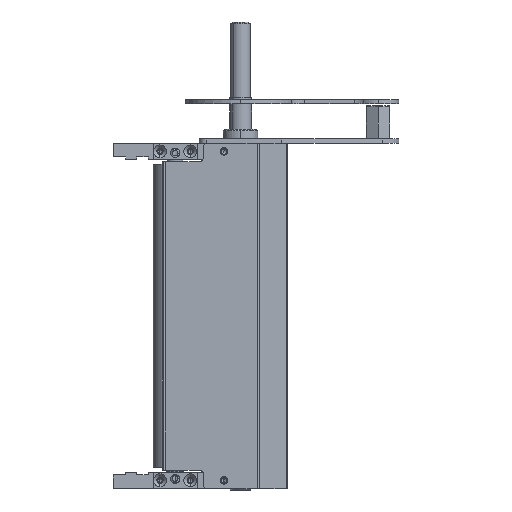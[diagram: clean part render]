
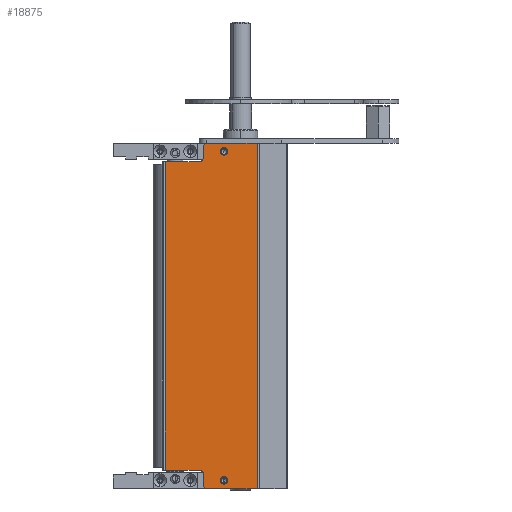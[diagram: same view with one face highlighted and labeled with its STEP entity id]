
A CAD part, left-side view. The second image highlights one B-rep face of the part: STEP entity #18875.
In plain terms, the highlighted planar face has unit normal (-1, 0, 0) as drawn and (1, 0, 0) by its records, which use the part's own axes.
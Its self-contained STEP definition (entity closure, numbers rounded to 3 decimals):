
#106 = ORIENTED_EDGE ( 'NONE', *, *, #14935, .F. ) ;
#121 = ORIENTED_EDGE ( 'NONE', *, *, #9740, .F. ) ;
#143 = CARTESIAN_POINT ( 'NONE',  ( 51.5, 62.5, -240.5 ) ) ;
#187 = DIRECTION ( 'NONE',  ( 1., 0., 0. ) ) ;
#375 = VERTEX_POINT ( 'NONE', #6140 ) ;
#398 = CARTESIAN_POINT ( 'NONE',  ( 51.5, 59.5, -10.5 ) ) ;
#423 = AXIS2_PLACEMENT_3D ( 'NONE', #10586, #187, #16388 ) ;
#641 = ORIENTED_EDGE ( 'NONE', *, *, #16964, .F. ) ;
#833 = EDGE_CURVE ( 'NONE', #13471, #16426, #17404, .T. ) ;
#1150 = VERTEX_POINT ( 'NONE', #10068 ) ;
#1168 = ORIENTED_EDGE ( 'NONE', *, *, #14545, .F. ) ;
#1393 = EDGE_CURVE ( 'NONE', #14818, #1468, #7954, .T. ) ;
#1468 = VERTEX_POINT ( 'NONE', #6281 ) ;
#1486 = PLANE ( 'NONE',  #6393 ) ;
#1951 = CARTESIAN_POINT ( 'NONE',  ( 51.5, 20.414, 0. ) ) ;
#2062 = DIRECTION ( 'NONE',  ( 0., 0., -1. ) ) ;
#2402 = CARTESIAN_POINT ( 'NONE',  ( 51.5, 19.793, -251. ) ) ;
#2522 = CIRCLE ( 'NONE', #9029, 2.75 ) ;
#2631 = CIRCLE ( 'NONE', #3945, 2.75 ) ;
#2635 = ORIENTED_EDGE ( 'NONE', *, *, #5751, .F. ) ;
#2716 = VERTEX_POINT ( 'NONE', #11891 ) ;
#2729 = DIRECTION ( 'NONE',  ( 0., 0., 1. ) ) ;
#3034 = LINE ( 'NONE', #6364, #10603 ) ;
#3144 = CARTESIAN_POINT ( 'NONE',  ( 51.5, 19.793, -251. ) ) ;
#3156 = EDGE_CURVE ( 'NONE', #375, #4272, #18952, .T. ) ;
#3270 = AXIS2_PLACEMENT_3D ( 'NONE', #143, #5925, #5731 ) ;
#3306 = CARTESIAN_POINT ( 'NONE',  ( 51.5, 62.5, -10.5 ) ) ;
#3515 = EDGE_CURVE ( 'NONE', #1150, #6341, #10384, .T. ) ;
#3635 = VERTEX_POINT ( 'NONE', #398 ) ;
#3637 = DIRECTION ( 'NONE',  ( 0., 1., 0. ) ) ;
#3696 = VERTEX_POINT ( 'NONE', #7588 ) ;
#3945 = AXIS2_PLACEMENT_3D ( 'NONE', #5201, #6939, #3998 ) ;
#3998 = DIRECTION ( 'NONE',  ( 0., 1., 0. ) ) ;
#4078 = VERTEX_POINT ( 'NONE', #13993 ) ;
#4108 = CARTESIAN_POINT ( 'NONE',  ( 51.5, 47.25, -245. ) ) ;
#4234 = EDGE_CURVE ( 'NONE', #1150, #4272, #15638, .T. ) ;
#4247 = VERTEX_POINT ( 'NONE', #9824 ) ;
#4272 = VERTEX_POINT ( 'NONE', #13159 ) ;
#4343 = CARTESIAN_POINT ( 'NONE',  ( 51.5, 20.414, -251. ) ) ;
#4873 = CARTESIAN_POINT ( 'NONE',  ( 51.5, 20.414, -251. ) ) ;
#4911 = CIRCLE ( 'NONE', #7179, 2.75 ) ;
#5201 = CARTESIAN_POINT ( 'NONE',  ( 51.5, 44.5, -6. ) ) ;
#5346 = CIRCLE ( 'NONE', #14782, 3. ) ;
#5615 = AXIS2_PLACEMENT_3D ( 'NONE', #3306, #13566, #19077 ) ;
#5625 = CARTESIAN_POINT ( 'NONE',  ( 51.5, 56.5, -3. ) ) ;
#5731 = DIRECTION ( 'NONE',  ( 0., 1., 0. ) ) ;
#5751 = EDGE_CURVE ( 'NONE', #12759, #17498, #8062, .T. ) ;
#5925 = DIRECTION ( 'NONE',  ( -1., 0., 0. ) ) ;
#5999 = VECTOR ( 'NONE', #6570, 1000. ) ;
#6140 = CARTESIAN_POINT ( 'NONE',  ( 51.5, 56.5, -251. ) ) ;
#6281 = CARTESIAN_POINT ( 'NONE',  ( 51.5, 41.75, -245. ) ) ;
#6334 = VECTOR ( 'NONE', #2729, 1000. ) ;
#6341 = VERTEX_POINT ( 'NONE', #15886 ) ;
#6364 = CARTESIAN_POINT ( 'NONE',  ( 51.5, 59.5, -251. ) ) ;
#6393 = AXIS2_PLACEMENT_3D ( 'NONE', #3144, #16257, #10523 ) ;
#6475 = VECTOR ( 'NONE', #8469, 1000. ) ;
#6570 = DIRECTION ( 'NONE',  ( 0., 1., 0. ) ) ;
#6655 = AXIS2_PLACEMENT_3D ( 'NONE', #17667, #8922, #14819 ) ;
#6939 = DIRECTION ( 'NONE',  ( 1., 0., 0. ) ) ;
#7032 = CARTESIAN_POINT ( 'NONE',  ( 51.5, 44.5, -6. ) ) ;
#7116 = CARTESIAN_POINT ( 'NONE',  ( 51.5, 59.5, -251. ) ) ;
#7179 = AXIS2_PLACEMENT_3D ( 'NONE', #15992, #18940, #7193 ) ;
#7193 = DIRECTION ( 'NONE',  ( 0., 1., 0. ) ) ;
#7218 = DIRECTION ( 'NONE',  ( 1., 0., 0. ) ) ;
#7371 = ORIENTED_EDGE ( 'NONE', *, *, #3515, .T. ) ;
#7447 = ORIENTED_EDGE ( 'NONE', *, *, #12819, .F. ) ;
#7588 = CARTESIAN_POINT ( 'NONE',  ( 51.5, 56.5, 0. ) ) ;
#7676 = VECTOR ( 'NONE', #18388, 1000. ) ;
#7742 = EDGE_CURVE ( 'NONE', #15659, #16426, #13580, .T. ) ;
#7954 = CIRCLE ( 'NONE', #6655, 2.75 ) ;
#7958 = CARTESIAN_POINT ( 'NONE',  ( 51.5, 62.5, -13.5 ) ) ;
#8062 = LINE ( 'NONE', #4343, #9889 ) ;
#8120 = CARTESIAN_POINT ( 'NONE',  ( 51.5, 19.793, -13.5 ) ) ;
#8157 = VECTOR ( 'NONE', #3637, 1000. ) ;
#8469 = DIRECTION ( 'NONE',  ( 0., -1., 0. ) ) ;
#8922 = DIRECTION ( 'NONE',  ( 1., 0., 0. ) ) ;
#9029 = AXIS2_PLACEMENT_3D ( 'NONE', #7032, #13069, #11607 ) ;
#9060 = LINE ( 'NONE', #18265, #7676 ) ;
#9524 = EDGE_LOOP ( 'NONE', ( #106, #121 ) ) ;
#9740 = EDGE_CURVE ( 'NONE', #4078, #2716, #2522, .T. ) ;
#9771 = ORIENTED_EDGE ( 'NONE', *, *, #1393, .F. ) ;
#9824 = CARTESIAN_POINT ( 'NONE',  ( 51.5, 59.5, -3. ) ) ;
#9889 = VECTOR ( 'NONE', #11548, 1000. ) ;
#10068 = CARTESIAN_POINT ( 'NONE',  ( 51.5, 59.5, -240.5 ) ) ;
#10353 = FACE_BOUND ( 'NONE', #14289, .T. ) ;
#10384 = CIRCLE ( 'NONE', #3270, 3. ) ;
#10523 = DIRECTION ( 'NONE',  ( 0., 1., 0. ) ) ;
#10586 = CARTESIAN_POINT ( 'NONE',  ( 51.5, 56.5, -248. ) ) ;
#10603 = VECTOR ( 'NONE', #2062, 1000. ) ;
#11145 = EDGE_CURVE ( 'NONE', #15659, #3635, #14860, .T. ) ;
#11548 = DIRECTION ( 'NONE',  ( 0., 0., 1. ) ) ;
#11607 = DIRECTION ( 'NONE',  ( 0., 1., 0. ) ) ;
#11732 = VECTOR ( 'NONE', #17416, 1000. ) ;
#11891 = CARTESIAN_POINT ( 'NONE',  ( 51.5, 41.75, -6. ) ) ;
#12048 = LINE ( 'NONE', #2402, #8157 ) ;
#12374 = EDGE_LOOP ( 'NONE', ( #17835, #13753, #14579, #7371, #14474, #15658, #17918, #18740, #1168, #17411, #7447, #2635 ) ) ;
#12594 = EDGE_CURVE ( 'NONE', #12759, #375, #12048, .T. ) ;
#12759 = VERTEX_POINT ( 'NONE', #4873 ) ;
#12819 = EDGE_CURVE ( 'NONE', #17498, #3696, #9060, .T. ) ;
#13069 = DIRECTION ( 'NONE',  ( 1., 0., 0. ) ) ;
#13159 = CARTESIAN_POINT ( 'NONE',  ( 51.5, 59.5, -248. ) ) ;
#13471 = VERTEX_POINT ( 'NONE', #17608 ) ;
#13566 = DIRECTION ( 'NONE',  ( -1., 0., 0. ) ) ;
#13580 = LINE ( 'NONE', #8120, #5999 ) ;
#13753 = ORIENTED_EDGE ( 'NONE', *, *, #3156, .T. ) ;
#13993 = CARTESIAN_POINT ( 'NONE',  ( 51.5, 47.25, -6. ) ) ;
#14029 = EDGE_CURVE ( 'NONE', #4247, #3696, #5346, .T. ) ;
#14289 = EDGE_LOOP ( 'NONE', ( #641, #9771 ) ) ;
#14474 = ORIENTED_EDGE ( 'NONE', *, *, #14827, .F. ) ;
#14494 = FACE_BOUND ( 'NONE', #9524, .T. ) ;
#14545 = EDGE_CURVE ( 'NONE', #4247, #3635, #3034, .T. ) ;
#14579 = ORIENTED_EDGE ( 'NONE', *, *, #4234, .F. ) ;
#14742 = LINE ( 'NONE', #18989, #6475 ) ;
#14782 = AXIS2_PLACEMENT_3D ( 'NONE', #5625, #7218, #17522 ) ;
#14818 = VERTEX_POINT ( 'NONE', #4108 ) ;
#14819 = DIRECTION ( 'NONE',  ( 0., 1., 0. ) ) ;
#14827 = EDGE_CURVE ( 'NONE', #13471, #6341, #14742, .T. ) ;
#14860 = CIRCLE ( 'NONE', #5615, 3. ) ;
#14935 = EDGE_CURVE ( 'NONE', #2716, #4078, #2631, .T. ) ;
#15310 = CARTESIAN_POINT ( 'NONE',  ( 51.5, 87., -13.5 ) ) ;
#15638 = LINE ( 'NONE', #7116, #11732 ) ;
#15658 = ORIENTED_EDGE ( 'NONE', *, *, #833, .T. ) ;
#15659 = VERTEX_POINT ( 'NONE', #7958 ) ;
#15886 = CARTESIAN_POINT ( 'NONE',  ( 51.5, 62.5, -237.5 ) ) ;
#15992 = CARTESIAN_POINT ( 'NONE',  ( 51.5, 44.5, -245. ) ) ;
#16022 = CARTESIAN_POINT ( 'NONE',  ( 51.5, 87., -251. ) ) ;
#16257 = DIRECTION ( 'NONE',  ( 1., 0., 0. ) ) ;
#16388 = DIRECTION ( 'NONE',  ( 0., 1., 0. ) ) ;
#16426 = VERTEX_POINT ( 'NONE', #15310 ) ;
#16964 = EDGE_CURVE ( 'NONE', #1468, #14818, #4911, .T. ) ;
#17404 = LINE ( 'NONE', #16022, #6334 ) ;
#17411 = ORIENTED_EDGE ( 'NONE', *, *, #14029, .T. ) ;
#17416 = DIRECTION ( 'NONE',  ( 0., 0., -1. ) ) ;
#17498 = VERTEX_POINT ( 'NONE', #1951 ) ;
#17522 = DIRECTION ( 'NONE',  ( 0., 1., 0. ) ) ;
#17608 = CARTESIAN_POINT ( 'NONE',  ( 51.5, 87., -237.5 ) ) ;
#17667 = CARTESIAN_POINT ( 'NONE',  ( 51.5, 44.5, -245. ) ) ;
#17835 = ORIENTED_EDGE ( 'NONE', *, *, #12594, .T. ) ;
#17918 = ORIENTED_EDGE ( 'NONE', *, *, #7742, .F. ) ;
#18265 = CARTESIAN_POINT ( 'NONE',  ( 51.5, 19.793, 0. ) ) ;
#18388 = DIRECTION ( 'NONE',  ( 0., 1., 0. ) ) ;
#18681 = FACE_OUTER_BOUND ( 'NONE', #12374, .T. ) ;
#18740 = ORIENTED_EDGE ( 'NONE', *, *, #11145, .T. ) ;
#18875 = ADVANCED_FACE ( 'NONE', ( #14494, #10353, #18681 ), #1486, .T. ) ;
#18940 = DIRECTION ( 'NONE',  ( 1., 0., 0. ) ) ;
#18952 = CIRCLE ( 'NONE', #423, 3. ) ;
#18989 = CARTESIAN_POINT ( 'NONE',  ( 51.5, 19.793, -237.5 ) ) ;
#19077 = DIRECTION ( 'NONE',  ( 0., 1., 0. ) ) ;
